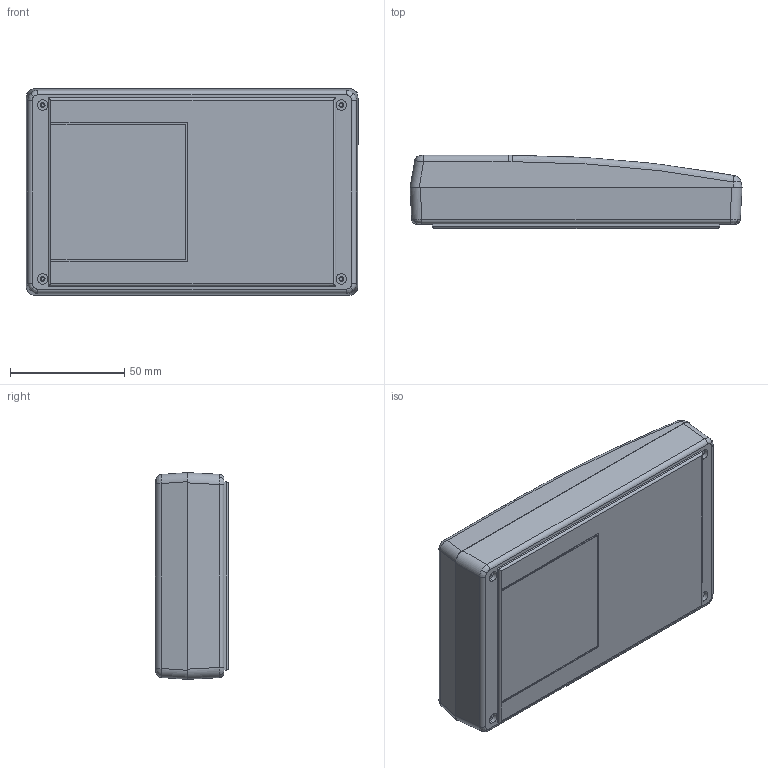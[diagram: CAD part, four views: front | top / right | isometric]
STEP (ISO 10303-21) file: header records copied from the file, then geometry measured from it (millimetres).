
FILE_DESCRIPTION (( 'STEP AP214' ), '1' );
FILE_NAME ('90-63-NO-F.STEP', '2020-11-02T20:35:08', ( 'Rudy' ), ( '' ), 'SwSTEP 2.0', 'SolidWorks 2014', '' );
FILE_SCHEMA (( 'AUTOMOTIVE_DESIGN' ));
Length unit declared in the file: inch
Products named in the file (4): 90 PCB NO; 90-Top Sloped Flush; 90-no bat-bottom; 90-63-NO-F
Assembly tree (3 placements, depth 2):
  90-63-NO-F
    90-no bat-bottom
    90-Top Sloped Flush
    90 PCB NO
Bounding box: 145.5 x 32 x 90.6 mm (x, y, z)
Volume: 173434.3 mm3; surface area: 102683.9 mm2
Topology: 3 solids, 3 shells, 239 faces, 605 edges, 392 vertices
Faces by surface type: plane 130, cylinder 60, cone 32, bspline 17
Entity records: 7712 total; most frequent: CARTESIAN_POINT 1998, ORIENTED_EDGE 1210, DIRECTION 1102, EDGE_CURVE 605, VERTEX_POINT 392, AXIS2_PLACEMENT_3D 390, VECTOR 322, LINE 322
